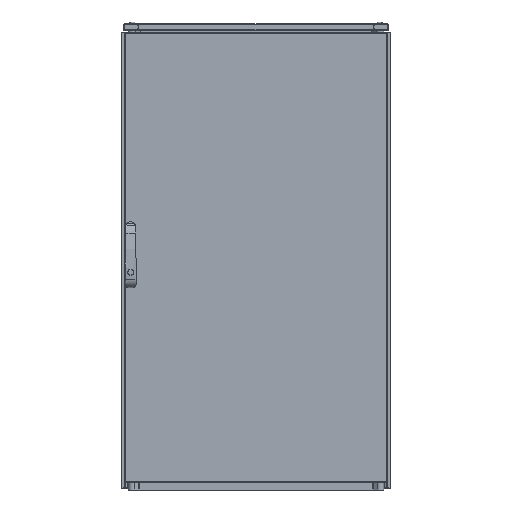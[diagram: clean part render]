
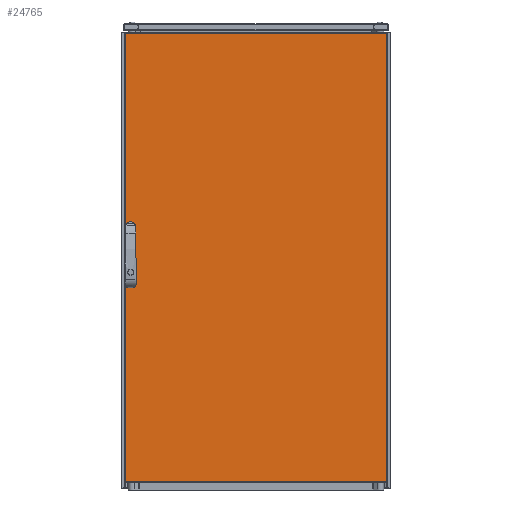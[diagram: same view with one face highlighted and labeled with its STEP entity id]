
A CAD part, front view. The second image highlights one B-rep face of the part: STEP entity #24765.
In plain terms, the highlighted planar face has unit normal (0, -1, 0).
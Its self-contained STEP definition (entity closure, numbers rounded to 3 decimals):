
#1516=CIRCLE('',#26906,9.5);
#1517=CIRCLE('',#26907,9.5);
#1518=CIRCLE('',#26908,9.5);
#1519=CIRCLE('',#26909,9.5);
#6258=ORIENTED_EDGE('',*,*,#11232,.T.);
#6259=ORIENTED_EDGE('',*,*,#11233,.T.);
#6260=ORIENTED_EDGE('',*,*,#11234,.T.);
#6261=ORIENTED_EDGE('',*,*,#11235,.T.);
#6262=ORIENTED_EDGE('',*,*,#11236,.T.);
#6263=ORIENTED_EDGE('',*,*,#11237,.T.);
#6264=ORIENTED_EDGE('',*,*,#11238,.T.);
#6265=ORIENTED_EDGE('',*,*,#11239,.T.);
#6266=ORIENTED_EDGE('',*,*,#11240,.T.);
#6267=ORIENTED_EDGE('',*,*,#11241,.T.);
#6268=ORIENTED_EDGE('',*,*,#11242,.T.);
#6269=ORIENTED_EDGE('',*,*,#11243,.T.);
#11232=EDGE_CURVE('',#14088,#14089,#16452,.T.);
#11233=EDGE_CURVE('',#14089,#14090,#16453,.F.);
#11234=EDGE_CURVE('',#14090,#14091,#16454,.F.);
#11235=EDGE_CURVE('',#14091,#14088,#16455,.T.);
#11236=EDGE_CURVE('',#14092,#14093,#1516,.T.);
#11237=EDGE_CURVE('',#14093,#14094,#16456,.T.);
#11238=EDGE_CURVE('',#14094,#14095,#1517,.T.);
#11239=EDGE_CURVE('',#14095,#14092,#16457,.T.);
#11240=EDGE_CURVE('',#14096,#14097,#1518,.T.);
#11241=EDGE_CURVE('',#14097,#14098,#16458,.T.);
#11242=EDGE_CURVE('',#14098,#14099,#1519,.T.);
#11243=EDGE_CURVE('',#14099,#14096,#16459,.T.);
#14088=VERTEX_POINT('',#39989);
#14089=VERTEX_POINT('',#39990);
#14090=VERTEX_POINT('',#39992);
#14091=VERTEX_POINT('',#39994);
#14092=VERTEX_POINT('',#39997);
#14093=VERTEX_POINT('',#39998);
#14094=VERTEX_POINT('',#40000);
#14095=VERTEX_POINT('',#40002);
#14096=VERTEX_POINT('',#40005);
#14097=VERTEX_POINT('',#40006);
#14098=VERTEX_POINT('',#40008);
#14099=VERTEX_POINT('',#40010);
#16452=LINE('',#39988,#18601);
#16453=LINE('',#39991,#18602);
#16454=LINE('',#39993,#18603);
#16455=LINE('',#39995,#18604);
#16456=LINE('',#39999,#18605);
#16457=LINE('',#40003,#18606);
#16458=LINE('',#40007,#18607);
#16459=LINE('',#40011,#18608);
#18601=VECTOR('',#32419,1000.);
#18602=VECTOR('',#32420,1000.);
#18603=VECTOR('',#32421,1000.);
#18604=VECTOR('',#32422,1000.);
#18605=VECTOR('',#32425,1000.);
#18606=VECTOR('',#32428,1000.);
#18607=VECTOR('',#32431,1000.);
#18608=VECTOR('',#32434,1000.);
#20368=EDGE_LOOP('',(#6258,#6259,#6260,#6261));
#20369=EDGE_LOOP('',(#6262,#6263,#6264,#6265));
#20370=EDGE_LOOP('',(#6266,#6267,#6268,#6269));
#22347=FACE_BOUND('',#20368,.T.);
#22348=FACE_BOUND('',#20369,.T.);
#22349=FACE_BOUND('',#20370,.T.);
#23761=PLANE('',#26905);
#24765=ADVANCED_FACE('',(#22347,#22348,#22349),#23761,.F.);
#26905=AXIS2_PLACEMENT_3D('',#39987,#32417,#32418);
#26906=AXIS2_PLACEMENT_3D('',#39996,#32423,#32424);
#26907=AXIS2_PLACEMENT_3D('',#40001,#32426,#32427);
#26908=AXIS2_PLACEMENT_3D('',#40004,#32429,#32430);
#26909=AXIS2_PLACEMENT_3D('',#40009,#32432,#32433);
#32417=DIRECTION('',(0.,1.,0.));
#32418=DIRECTION('',(0.,0.,1.));
#32419=DIRECTION('',(1.,0.,0.));
#32420=DIRECTION('',(0.,0.,-1.));
#32421=DIRECTION('',(1.,0.,0.));
#32422=DIRECTION('',(0.,0.,-1.));
#32423=DIRECTION('',(0.,1.,0.));
#32424=DIRECTION('',(1.,0.,0.));
#32425=DIRECTION('',(0.,0.,1.));
#32426=DIRECTION('',(0.,1.,0.));
#32427=DIRECTION('',(1.,0.,0.));
#32428=DIRECTION('',(0.,0.,-1.));
#32429=DIRECTION('',(0.,1.,0.));
#32430=DIRECTION('',(1.,0.,0.));
#32431=DIRECTION('',(0.,0.,1.));
#32432=DIRECTION('',(0.,1.,0.));
#32433=DIRECTION('',(1.,0.,0.));
#32434=DIRECTION('',(0.,0.,-1.));
#39987=CARTESIAN_POINT('',(-397.5,-19.,680.));
#39988=CARTESIAN_POINT('',(-397.5,-19.,-677.));
#39989=CARTESIAN_POINT('',(-394.5,-19.,-677.));
#39990=CARTESIAN_POINT('',(394.5,-19.,-677.));
#39991=CARTESIAN_POINT('',(394.5,-19.,680.));
#39992=CARTESIAN_POINT('',(394.5,-19.,677.));
#39993=CARTESIAN_POINT('',(-397.5,-19.,677.));
#39994=CARTESIAN_POINT('',(-394.5,-19.,677.));
#39995=CARTESIAN_POINT('',(-394.5,-19.,680.));
#39996=CARTESIAN_POINT('',(-378.3,-19.,32.25));
#39997=CARTESIAN_POINT('',(-368.8,-19.,32.25));
#39998=CARTESIAN_POINT('',(-387.8,-19.,32.25));
#39999=CARTESIAN_POINT('',(-387.8,-19.,32.25));
#40000=CARTESIAN_POINT('',(-387.8,-19.,80.25));
#40001=CARTESIAN_POINT('',(-378.3,-19.,80.25));
#40002=CARTESIAN_POINT('',(-368.8,-19.,80.25));
#40003=CARTESIAN_POINT('',(-368.8,-19.,80.25));
#40004=CARTESIAN_POINT('',(-378.3,-19.,-80.25));
#40005=CARTESIAN_POINT('',(-368.8,-19.,-80.25));
#40006=CARTESIAN_POINT('',(-387.8,-19.,-80.25));
#40007=CARTESIAN_POINT('',(-387.8,-19.,-80.25));
#40008=CARTESIAN_POINT('',(-387.8,-19.,-32.25));
#40009=CARTESIAN_POINT('',(-378.3,-19.,-32.25));
#40010=CARTESIAN_POINT('',(-368.8,-19.,-32.25));
#40011=CARTESIAN_POINT('',(-368.8,-19.,-32.25));
